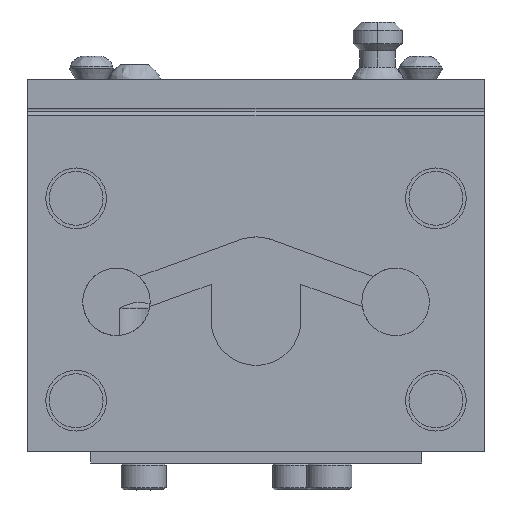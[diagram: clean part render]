
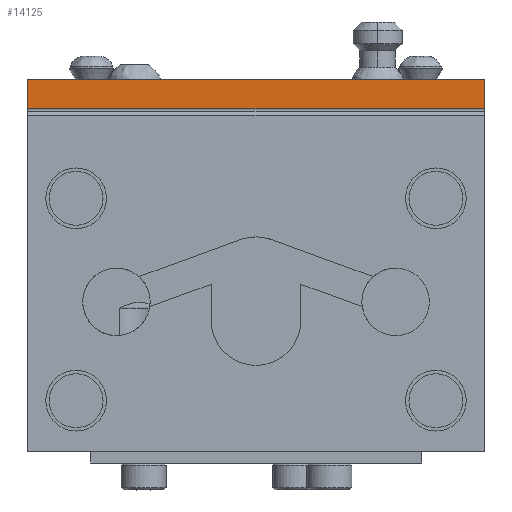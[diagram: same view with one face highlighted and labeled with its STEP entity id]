
A CAD part, front view. The second image highlights one B-rep face of the part: STEP entity #14125.
In plain terms, the highlighted planar face has unit normal (0, -1, 0).
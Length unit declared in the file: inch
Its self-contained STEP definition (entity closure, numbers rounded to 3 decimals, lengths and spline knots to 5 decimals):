
#133 = EDGE_CURVE ( 'NONE', #17479, #10831, #12012, .T. ) ;
#151 = CARTESIAN_POINT ( 'NONE',  ( -2.98486, -1.9331, -2.40209 ) ) ;
#256 = DIRECTION ( 'NONE',  ( 0., 0., -1. ) ) ;
#1325 = CARTESIAN_POINT ( 'NONE',  ( -2.98486, -1.9331, 0.84791 ) ) ;
#3232 = CARTESIAN_POINT ( 'NONE',  ( 1.01514, -1.9331, -2.40209 ) ) ;
#3889 = LINE ( 'NONE', #9871, #16949 ) ;
#5558 = FACE_OUTER_BOUND ( 'NONE', #9356, .T. ) ;
#6074 = DIRECTION ( 'NONE',  ( 0., 0., 1. ) ) ;
#6093 = VECTOR ( 'NONE', #256, 39.37008 ) ;
#6221 = EDGE_CURVE ( 'NONE', #9880, #17479, #3889, .T. ) ;
#6520 = EDGE_CURVE ( 'NONE', #10831, #7558, #19206, .T. ) ;
#6684 = ORIENTED_EDGE ( 'NONE', *, *, #6221, .T. ) ;
#6741 = AXIS2_PLACEMENT_3D ( 'NONE', #17791, #7412, #13011 ) ;
#7256 = VECTOR ( 'NONE', #10204, 39.37008 ) ;
#7412 = DIRECTION ( 'NONE',  ( 0., -1., 0. ) ) ;
#7485 = CARTESIAN_POINT ( 'NONE',  ( -2.98486, -1.9331, 0.59791 ) ) ;
#7558 = VERTEX_POINT ( 'NONE', #17199 ) ;
#8284 = VECTOR ( 'NONE', #6074, 39.37008 ) ;
#8568 = ORIENTED_EDGE ( 'NONE', *, *, #6520, .T. ) ;
#8597 = DIRECTION ( 'NONE',  ( -1., 0., 0. ) ) ;
#9356 = EDGE_LOOP ( 'NONE', ( #8568, #18216, #6684, #18073 ) ) ;
#9871 = CARTESIAN_POINT ( 'NONE',  ( -2.98486, -1.9331, 0.84791 ) ) ;
#9880 = VERTEX_POINT ( 'NONE', #10020 ) ;
#10020 = CARTESIAN_POINT ( 'NONE',  ( 1.01514, -1.9331, 0.84791 ) ) ;
#10204 = DIRECTION ( 'NONE',  ( 1., 0., 0. ) ) ;
#10831 = VERTEX_POINT ( 'NONE', #7485 ) ;
#11682 = CARTESIAN_POINT ( 'NONE',  ( -2.98486, -1.9331, 0.59791 ) ) ;
#12012 = LINE ( 'NONE', #151, #6093 ) ;
#12166 = LINE ( 'NONE', #3232, #8284 ) ;
#13011 = DIRECTION ( 'NONE',  ( 0., 0., -1. ) ) ;
#14125 = ADVANCED_FACE ( 'NONE', ( #5558 ), #17603, .T. ) ;
#14680 = EDGE_CURVE ( 'NONE', #7558, #9880, #12166, .T. ) ;
#16949 = VECTOR ( 'NONE', #8597, 39.37008 ) ;
#17199 = CARTESIAN_POINT ( 'NONE',  ( 1.01514, -1.9331, 0.59791 ) ) ;
#17479 = VERTEX_POINT ( 'NONE', #1325 ) ;
#17603 = PLANE ( 'NONE',  #6741 ) ;
#17791 = CARTESIAN_POINT ( 'NONE',  ( -2.98486, -1.9331, 0.59791 ) ) ;
#18073 = ORIENTED_EDGE ( 'NONE', *, *, #133, .T. ) ;
#18216 = ORIENTED_EDGE ( 'NONE', *, *, #14680, .T. ) ;
#19206 = LINE ( 'NONE', #11682, #7256 ) ;
